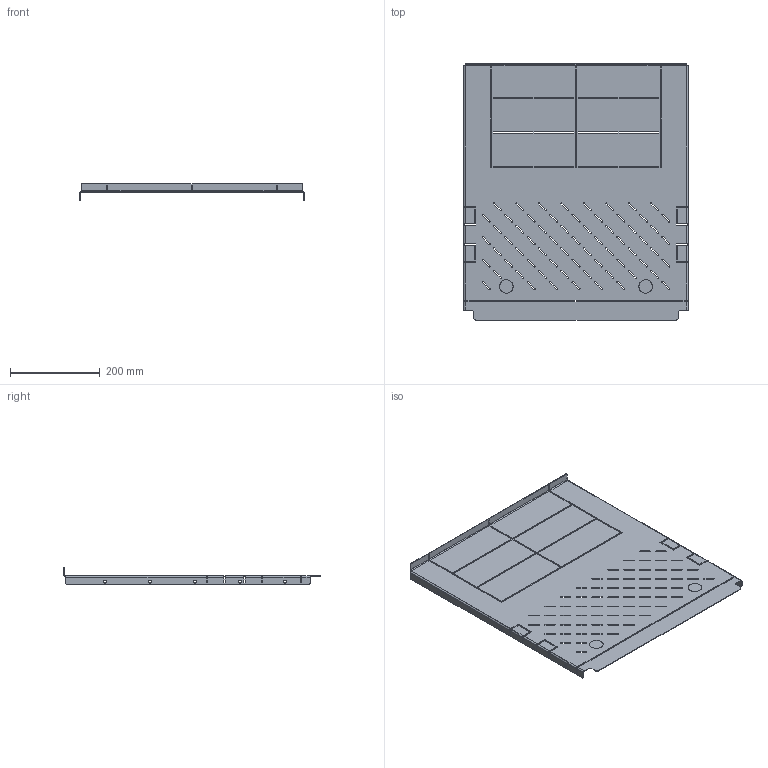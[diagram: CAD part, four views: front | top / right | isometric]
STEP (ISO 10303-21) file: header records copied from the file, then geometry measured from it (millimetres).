
FILE_DESCRIPTION(('STEP AP203'), '1');
FILE_NAME('3605 青牮桢 泐痂珙眚嚯铄', '', ('UNSPECIFIED'), ('UNSPECIFIED'), 'C3D Converter', 'C3D Toolkit', '');
FILE_SCHEMA(('CONFIG_CONTROL_DESIGN'));
Length unit declared in the file: millimetre
Products named in the file (1): 3605.60.60
Bounding box: 500 x 570 x 36.5 mm (x, y, z)
Volume: 445038.2 mm3; surface area: 611197.2 mm2
Topology: 1 solids, 1 shells, 616 faces, 1792 edges, 1152 vertices
Faces by surface type: plane 420, cylinder 196
Full cylindrical faces by diameter (mm): 6.5 x10
Entity records: 20638 total; most frequent: ORIENTED_EDGE 3564, CARTESIAN_POINT 3551, DIRECTION 3408, EDGE_CURVE 1782, LINE 1390, VECTOR 1390, VERTEX_POINT 1152, AXIS2_PLACEMENT_3D 1009
